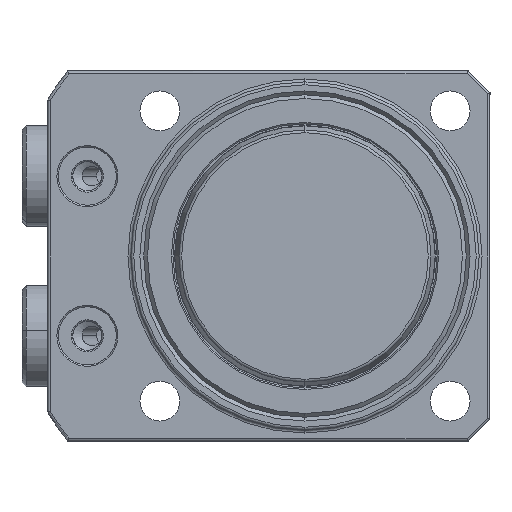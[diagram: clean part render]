
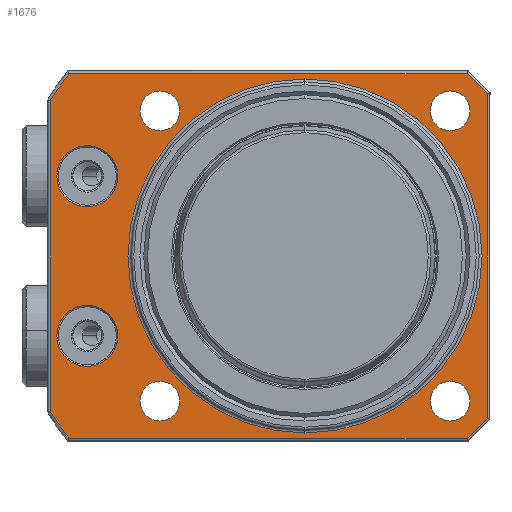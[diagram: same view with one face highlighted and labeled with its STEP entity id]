
A CAD part, front view. The second image highlights one B-rep face of the part: STEP entity #1676.
In plain terms, the highlighted planar face has unit normal (0, -1, 0) as drawn and (1, 0, 0) by its records, which use the part's own axes.
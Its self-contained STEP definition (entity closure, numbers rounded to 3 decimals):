
#861=FACE_BOUND('',#2128,.T.);
#862=FACE_BOUND('',#2129,.T.);
#863=FACE_BOUND('',#2130,.T.);
#864=FACE_BOUND('',#2131,.T.);
#865=FACE_BOUND('',#2132,.T.);
#866=FACE_BOUND('',#2133,.T.);
#867=FACE_BOUND('',#2134,.T.);
#868=FACE_BOUND('',#2135,.T.);
#931=PLANE('',#4921);
#1283=LINE('',#7820,#1492);
#1284=LINE('',#7823,#1493);
#1285=LINE('',#7825,#1494);
#1286=LINE('',#7829,#1495);
#1287=LINE('',#7833,#1496);
#1288=LINE('',#7835,#1497);
#1492=VECTOR('',#5866,1.);
#1493=VECTOR('',#5867,1.);
#1494=VECTOR('',#5868,1.);
#1495=VECTOR('',#5871,1.);
#1496=VECTOR('',#5874,1.);
#1497=VECTOR('',#5875,1.);
#1676=ADVANCED_FACE('',(#861,#862,#863,#864,#865,#866,#867,#868),#931,.F.);
#2128=EDGE_LOOP('',(#3051,#3052));
#2129=EDGE_LOOP('',(#3053,#3054));
#2130=EDGE_LOOP('',(#3055,#3056,#3057,#3058,#3059,#3060,#3061,#3062));
#2131=EDGE_LOOP('',(#3063,#3064));
#2132=EDGE_LOOP('',(#3065,#3066));
#2133=EDGE_LOOP('',(#3067,#3068));
#2134=EDGE_LOOP('',(#3069,#3070));
#2135=EDGE_LOOP('',(#3071,#3072));
#3051=ORIENTED_EDGE('',*,*,#4033,.T.);
#3052=ORIENTED_EDGE('',*,*,#4231,.T.);
#3053=ORIENTED_EDGE('',*,*,#4023,.T.);
#3054=ORIENTED_EDGE('',*,*,#4232,.T.);
#3055=ORIENTED_EDGE('',*,*,#4233,.T.);
#3056=ORIENTED_EDGE('',*,*,#4234,.T.);
#3057=ORIENTED_EDGE('',*,*,#4235,.T.);
#3058=ORIENTED_EDGE('',*,*,#4236,.T.);
#3059=ORIENTED_EDGE('',*,*,#4237,.T.);
#3060=ORIENTED_EDGE('',*,*,#4238,.T.);
#3061=ORIENTED_EDGE('',*,*,#4239,.T.);
#3062=ORIENTED_EDGE('',*,*,#4240,.T.);
#3063=ORIENTED_EDGE('',*,*,#4241,.T.);
#3064=ORIENTED_EDGE('',*,*,#4045,.T.);
#3065=ORIENTED_EDGE('',*,*,#4242,.T.);
#3066=ORIENTED_EDGE('',*,*,#4108,.T.);
#3067=ORIENTED_EDGE('',*,*,#4243,.T.);
#3068=ORIENTED_EDGE('',*,*,#4116,.T.);
#3069=ORIENTED_EDGE('',*,*,#4244,.T.);
#3070=ORIENTED_EDGE('',*,*,#4124,.T.);
#3071=ORIENTED_EDGE('',*,*,#4245,.T.);
#3072=ORIENTED_EDGE('',*,*,#4132,.T.);
#3590=VERTEX_POINT('',#7013);
#3591=VERTEX_POINT('',#7015);
#3600=VERTEX_POINT('',#7035);
#3601=VERTEX_POINT('',#7037);
#3612=VERTEX_POINT('',#7063);
#3613=VERTEX_POINT('',#7064);
#3668=VERTEX_POINT('',#7283);
#3669=VERTEX_POINT('',#7284);
#3676=VERTEX_POINT('',#7310);
#3677=VERTEX_POINT('',#7311);
#3684=VERTEX_POINT('',#7337);
#3685=VERTEX_POINT('',#7338);
#3692=VERTEX_POINT('',#7364);
#3693=VERTEX_POINT('',#7365);
#3744=VERTEX_POINT('',#7821);
#3745=VERTEX_POINT('',#7822);
#3746=VERTEX_POINT('',#7824);
#3747=VERTEX_POINT('',#7826);
#3748=VERTEX_POINT('',#7828);
#3749=VERTEX_POINT('',#7830);
#3750=VERTEX_POINT('',#7832);
#3751=VERTEX_POINT('',#7834);
#4023=EDGE_CURVE('',#3591,#3590,#4448,.T.);
#4033=EDGE_CURVE('',#3601,#3600,#4454,.T.);
#4045=EDGE_CURVE('',#3612,#3613,#4463,.T.);
#4108=EDGE_CURVE('',#3668,#3669,#4487,.T.);
#4116=EDGE_CURVE('',#3676,#3677,#4490,.T.);
#4124=EDGE_CURVE('',#3684,#3685,#4493,.T.);
#4132=EDGE_CURVE('',#3692,#3693,#4496,.T.);
#4231=EDGE_CURVE('',#3600,#3601,#4534,.T.);
#4232=EDGE_CURVE('',#3590,#3591,#4535,.T.);
#4233=EDGE_CURVE('',#3744,#3745,#1283,.T.);
#4234=EDGE_CURVE('',#3745,#3746,#1284,.T.);
#4235=EDGE_CURVE('',#3746,#3747,#1285,.T.);
#4236=EDGE_CURVE('',#3747,#3748,#4536,.T.);
#4237=EDGE_CURVE('',#3748,#3749,#1286,.T.);
#4238=EDGE_CURVE('',#3749,#3750,#4537,.T.);
#4239=EDGE_CURVE('',#3750,#3751,#1287,.T.);
#4240=EDGE_CURVE('',#3751,#3744,#1288,.T.);
#4241=EDGE_CURVE('',#3613,#3612,#4538,.T.);
#4242=EDGE_CURVE('',#3669,#3668,#4539,.T.);
#4243=EDGE_CURVE('',#3677,#3676,#4540,.T.);
#4244=EDGE_CURVE('',#3685,#3684,#4541,.T.);
#4245=EDGE_CURVE('',#3693,#3692,#4542,.T.);
#4448=CIRCLE('',#4770,4.2);
#4454=CIRCLE('',#4778,4.2);
#4463=CIRCLE('',#4790,24.4);
#4487=CIRCLE('',#4828,2.75);
#4490=CIRCLE('',#4833,2.75);
#4493=CIRCLE('',#4838,2.75);
#4496=CIRCLE('',#4843,2.75);
#4534=CIRCLE('',#4912,4.2);
#4535=CIRCLE('',#4913,4.2);
#4536=CIRCLE('',#4914,41.1);
#4537=CIRCLE('',#4915,41.1);
#4538=CIRCLE('',#4916,24.4);
#4539=CIRCLE('',#4917,2.75);
#4540=CIRCLE('',#4918,2.75);
#4541=CIRCLE('',#4919,2.75);
#4542=CIRCLE('',#4920,2.75);
#4770=AXIS2_PLACEMENT_3D('',#7014,#5504,#5505);
#4778=AXIS2_PLACEMENT_3D('',#7036,#5524,#5525);
#4790=AXIS2_PLACEMENT_3D('',#7062,#5551,#5552);
#4828=AXIS2_PLACEMENT_3D('',#7282,#5655,#5656);
#4833=AXIS2_PLACEMENT_3D('',#7309,#5669,#5670);
#4838=AXIS2_PLACEMENT_3D('',#7336,#5683,#5684);
#4843=AXIS2_PLACEMENT_3D('',#7363,#5697,#5698);
#4912=AXIS2_PLACEMENT_3D('',#7818,#5862,#5863);
#4913=AXIS2_PLACEMENT_3D('',#7819,#5864,#5865);
#4914=AXIS2_PLACEMENT_3D('',#7827,#5869,#5870);
#4915=AXIS2_PLACEMENT_3D('',#7831,#5872,#5873);
#4916=AXIS2_PLACEMENT_3D('',#7836,#5876,#5877);
#4917=AXIS2_PLACEMENT_3D('',#7837,#5878,#5879);
#4918=AXIS2_PLACEMENT_3D('',#7838,#5880,#5881);
#4919=AXIS2_PLACEMENT_3D('',#7839,#5882,#5883);
#4920=AXIS2_PLACEMENT_3D('',#7840,#5884,#5885);
#4921=AXIS2_PLACEMENT_3D('',#7841,#5886,#5887);
#5504=DIRECTION('',(-1.,0.,0.));
#5505=DIRECTION('',(0.,0.,1.));
#5524=DIRECTION('',(-1.,0.,0.));
#5525=DIRECTION('',(0.,0.,1.));
#5551=DIRECTION('',(-1.,0.,0.));
#5552=DIRECTION('',(0.,0.,1.));
#5655=DIRECTION('',(-1.,0.,0.));
#5656=DIRECTION('',(0.,0.,1.));
#5669=DIRECTION('',(-1.,0.,0.));
#5670=DIRECTION('',(0.,0.,1.));
#5683=DIRECTION('',(-1.,0.,0.));
#5684=DIRECTION('',(0.,0.,1.));
#5697=DIRECTION('',(-1.,0.,0.));
#5698=DIRECTION('',(0.,0.,1.));
#5862=DIRECTION('',(-1.,0.,0.));
#5863=DIRECTION('',(0.,0.,1.));
#5864=DIRECTION('',(-1.,0.,0.));
#5865=DIRECTION('',(0.,0.,1.));
#5866=DIRECTION('',(0.,0.,1.));
#5867=DIRECTION('',(0.,-0.707,0.707));
#5868=DIRECTION('',(0.,-1.,0.));
#5869=DIRECTION('',(1.,0.,0.));
#5870=DIRECTION('',(0.,0.,1.));
#5871=DIRECTION('',(0.,0.,-1.));
#5872=DIRECTION('',(1.,0.,0.));
#5873=DIRECTION('',(0.,0.,1.));
#5874=DIRECTION('',(0.,1.,0.));
#5875=DIRECTION('',(0.,0.707,0.707));
#5876=DIRECTION('',(-1.,0.,0.));
#5877=DIRECTION('',(0.,0.,1.));
#5878=DIRECTION('',(-1.,0.,0.));
#5879=DIRECTION('',(0.,0.,1.));
#5880=DIRECTION('',(-1.,0.,0.));
#5881=DIRECTION('',(0.,0.,1.));
#5882=DIRECTION('',(-1.,0.,0.));
#5883=DIRECTION('',(0.,0.,1.));
#5884=DIRECTION('',(-1.,0.,0.));
#5885=DIRECTION('',(0.,0.,1.));
#5886=DIRECTION('',(-1.,0.,0.));
#5887=DIRECTION('',(0.,0.,-1.));
#7013=CARTESIAN_POINT('',(0.,-30.,15.2));
#7014=CARTESIAN_POINT('',(0.,-30.,11.));
#7015=CARTESIAN_POINT('',(0.,-30.,6.8));
#7035=CARTESIAN_POINT('',(0.,-30.,-6.8));
#7036=CARTESIAN_POINT('',(0.,-30.,-11.));
#7037=CARTESIAN_POINT('',(0.,-30.,-15.2));
#7062=CARTESIAN_POINT('',(0.,0.,0.));
#7063=CARTESIAN_POINT('',(0.,0.,-24.4));
#7064=CARTESIAN_POINT('',(0.,0.,24.4));
#7282=CARTESIAN_POINT('',(0.,20.,-20.));
#7283=CARTESIAN_POINT('',(0.,20.,-22.75));
#7284=CARTESIAN_POINT('',(0.,20.,-17.25));
#7309=CARTESIAN_POINT('',(0.,20.,20.));
#7310=CARTESIAN_POINT('',(0.,20.,17.25));
#7311=CARTESIAN_POINT('',(0.,20.,22.75));
#7336=CARTESIAN_POINT('',(0.,-20.,20.));
#7337=CARTESIAN_POINT('',(0.,-20.,17.25));
#7338=CARTESIAN_POINT('',(0.,-20.,22.75));
#7363=CARTESIAN_POINT('',(0.,-20.,-20.));
#7364=CARTESIAN_POINT('',(0.,-20.,-22.75));
#7365=CARTESIAN_POINT('',(0.,-20.,-17.25));
#7818=CARTESIAN_POINT('',(0.,-30.,-11.));
#7819=CARTESIAN_POINT('',(0.,-30.,11.));
#7820=CARTESIAN_POINT('',(0.,25.1,22.5));
#7821=CARTESIAN_POINT('',(0.,25.1,-22.334));
#7822=CARTESIAN_POINT('',(0.,25.1,22.334));
#7823=CARTESIAN_POINT('',(0.,22.217,25.217));
#7824=CARTESIAN_POINT('',(0.,22.334,25.1));
#7825=CARTESIAN_POINT('',(0.,-32.741,25.1));
#7826=CARTESIAN_POINT('',(0.,-32.545,25.1));
#7827=CARTESIAN_POINT('',(0.,0.,0.));
#7828=CARTESIAN_POINT('',(0.,-35.1,21.382));
#7829=CARTESIAN_POINT('',(0.,-35.1,-21.494));
#7830=CARTESIAN_POINT('',(0.,-35.1,-21.382));
#7831=CARTESIAN_POINT('',(0.,0.,0.));
#7832=CARTESIAN_POINT('',(0.,-32.545,-25.1));
#7833=CARTESIAN_POINT('',(0.,22.5,-25.1));
#7834=CARTESIAN_POINT('',(0.,22.334,-25.1));
#7835=CARTESIAN_POINT('',(0.,25.217,-22.217));
#7836=CARTESIAN_POINT('',(0.,0.,0.));
#7837=CARTESIAN_POINT('',(0.,20.,-20.));
#7838=CARTESIAN_POINT('',(0.,20.,20.));
#7839=CARTESIAN_POINT('',(0.,-20.,20.));
#7840=CARTESIAN_POINT('',(0.,-20.,-20.));
#7841=CARTESIAN_POINT('',(0.,0.,0.));
